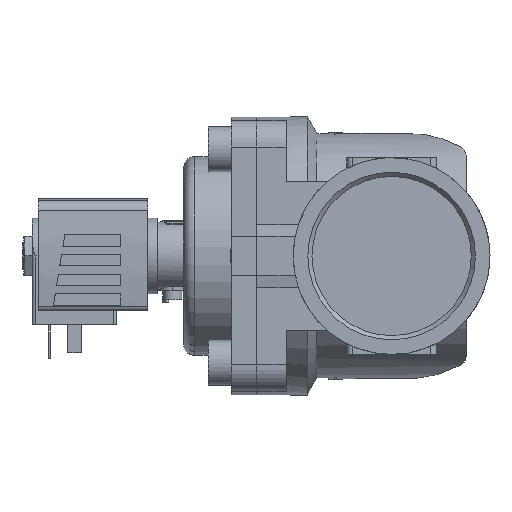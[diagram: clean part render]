
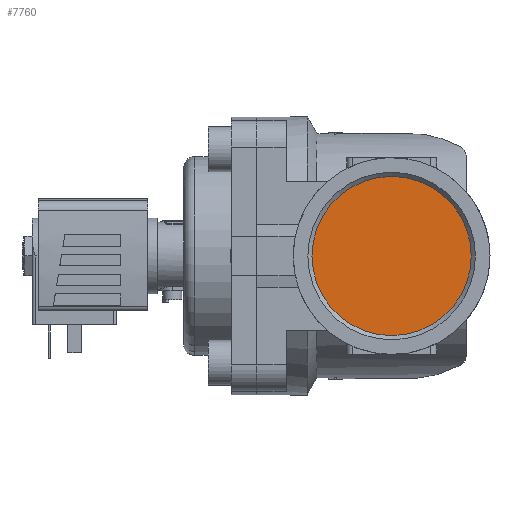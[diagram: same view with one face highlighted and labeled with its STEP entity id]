
A CAD part, left-side view. The second image highlights one B-rep face of the part: STEP entity #7760.
In plain terms, the highlighted planar face has unit normal (-1, 0, 0).
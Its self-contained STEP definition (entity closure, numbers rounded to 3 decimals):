
#2761=ORIENTED_EDGE('',*,*,#3986,.F.);
#3986=EDGE_CURVE('',#4708,#4708,#5052,.T.);
#4708=VERTEX_POINT('',#11965);
#5052=CIRCLE('',#8336,28.328);
#5381=EDGE_LOOP('',(#2761));
#5795=FACE_BOUND('',#5381,.T.);
#6096=PLANE('',#8337);
#7760=ADVANCED_FACE('',(#5795),#6096,.T.);
#8336=AXIS2_PLACEMENT_3D('',#11964,#9812,#9813);
#8337=AXIS2_PLACEMENT_3D('',#11966,#9814,#9815);
#9812=DIRECTION('',(1.,0.,0.));
#9813=DIRECTION('',(0.,1.,0.));
#9814=DIRECTION('',(-1.,0.,0.));
#9815=DIRECTION('',(0.,-1.,0.));
#11964=CARTESIAN_POINT('',(-39.5,0.,0.));
#11965=CARTESIAN_POINT('',(-39.5,28.328,0.));
#11966=CARTESIAN_POINT('',(-39.5,28.328,0.));
